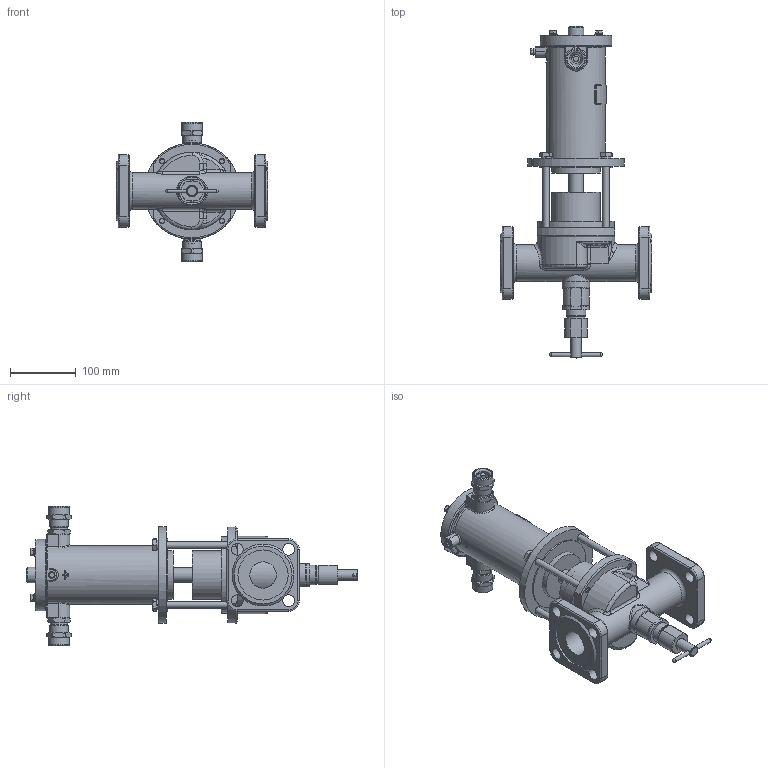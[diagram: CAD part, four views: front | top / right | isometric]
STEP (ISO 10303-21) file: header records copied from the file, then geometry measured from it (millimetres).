
FILE_DESCRIPTION(('STEP AP203'), '1');
FILE_NAME('ÑÅÍÑ DN40PN25-Â-200Ñ-ÑÂ.stp', '2018-09-19T08:47:44', ('Îðëîâ Å.Â.'), ('ÎÎÎ ÍÏÏ Ñåíñîð'), 'ASCON STEP Converter 1.3', 'Kompas 3D', '');
FILE_SCHEMA(('CONFIG_CONTROL_DESIGN','SUPPORT_RESOURCE_SCHEMA'));
Length unit declared in the file: millimetre
Products named in the file (1): 56
Bounding box: 230 x 503.5 x 211 mm (x, y, z)
Volume: 1776641 mm3; surface area: 462148.6 mm2
Topology: 2 solids, 20 shells, 1970 faces, 5221 edges, 3379 vertices
Faces by surface type: cylinder 1012, plane 713, cone 124, torus 54, bspline 47, extrusion 16, sphere 4
Full cylindrical faces by diameter (mm): 3.5 x2, 4.134 x1, 4.917 x4, 5 x1, 6 x10, 6.5 x4, 8 x4, 8.2 x1, 8.376 x4, 9 x1, 10 x5, 11 x5, 12 x4, 13 x2, 16 x2, 17 x2, 18 x9, 20 x5, 22 x3, 22.376 x2, 23 x1, 23.5 x2, 24 x3, 24.5 x2, 26 x4, 26.376 x2, 27.8 x1, 28 x3, 28.5 x2, 30 x2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
Entity records: 76821 total; most frequent: CARTESIAN_POINT 26800, DIRECTION 10848, ORIENTED_EDGE 10392, EDGE_CURVE 5196, AXIS2_PLACEMENT_3D 4171, VERTEX_POINT 3379, VECTOR 2506, LINE 2490
